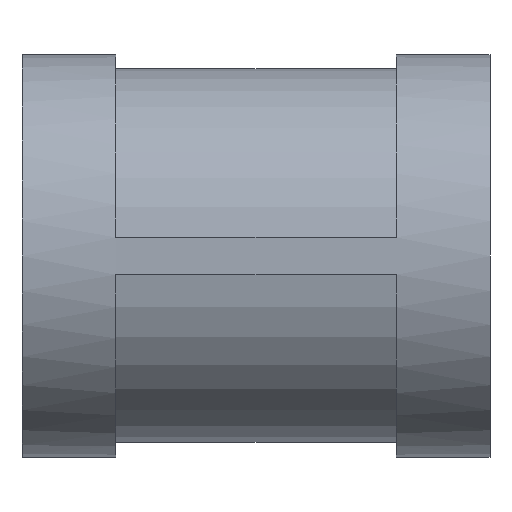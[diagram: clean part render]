
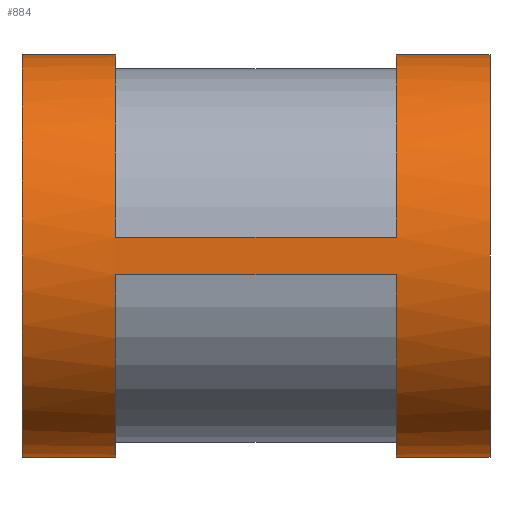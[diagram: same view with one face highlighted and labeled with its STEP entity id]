
A CAD part, front view. The second image highlights one B-rep face of the part: STEP entity #884.
In plain terms, the highlighted cylindrical face has radius 10.75 mm (diameter 21.5 mm), a partial arc.
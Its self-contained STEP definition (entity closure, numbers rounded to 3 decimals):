
#7 = LINE ( 'NONE', #683, #805 ) ;
#22 = VERTEX_POINT ( 'NONE', #66 ) ;
#45 = DIRECTION ( 'NONE',  ( 0., 0., 1. ) ) ;
#46 = CARTESIAN_POINT ( 'NONE',  ( -13.342, 0., 0. ) ) ;
#57 = EDGE_CURVE ( 'NONE', #364, #585, #175, .T. ) ;
#64 = EDGE_CURVE ( 'NONE', #370, #356, #538, .T. ) ;
#66 = CARTESIAN_POINT ( 'NONE',  ( 7.5, -10.703, -1. ) ) ;
#72 = LINE ( 'NONE', #835, #208 ) ;
#75 = DIRECTION ( 'NONE',  ( -1., 0., 0. ) ) ;
#80 = EDGE_CURVE ( 'NONE', #356, #22, #132, .T. ) ;
#82 = VERTEX_POINT ( 'NONE', #419 ) ;
#86 = EDGE_LOOP ( 'NONE', ( #101, #306, #374, #176, #388, #266, #413, #842, #321, #823, #240, #761 ) ) ;
#95 = CARTESIAN_POINT ( 'NONE',  ( 7.5, 0., 10.75 ) ) ;
#98 = CIRCLE ( 'NONE', #264, 10.75 ) ;
#101 = ORIENTED_EDGE ( 'NONE', *, *, #64, .F. ) ;
#120 = EDGE_CURVE ( 'NONE', #747, #246, #72, .T. ) ;
#130 = DIRECTION ( 'NONE',  ( -1., 0., 0. ) ) ;
#132 = CIRCLE ( 'NONE', #324, 10.75 ) ;
#135 = DIRECTION ( 'NONE',  ( 0., 0., 1. ) ) ;
#143 = CARTESIAN_POINT ( 'NONE',  ( 12.5, 0., 10.75 ) ) ;
#156 = EDGE_CURVE ( 'NONE', #577, #364, #7, .T. ) ;
#175 = CIRCLE ( 'NONE', #668, 10.75 ) ;
#176 = ORIENTED_EDGE ( 'NONE', *, *, #620, .F. ) ;
#183 = DIRECTION ( 'NONE',  ( -1., 0., 0. ) ) ;
#198 = CARTESIAN_POINT ( 'NONE',  ( -7.5, 0., 0. ) ) ;
#200 = CARTESIAN_POINT ( 'NONE',  ( -13.342, 0., -10.75 ) ) ;
#208 = VECTOR ( 'NONE', #832, 1000. ) ;
#219 = DIRECTION ( 'NONE',  ( 0., 0., 1. ) ) ;
#230 = CARTESIAN_POINT ( 'NONE',  ( -7.5, 0., 10.75 ) ) ;
#237 = DIRECTION ( 'NONE',  ( -1., 0., 0. ) ) ;
#240 = ORIENTED_EDGE ( 'NONE', *, *, #433, .F. ) ;
#246 = VERTEX_POINT ( 'NONE', #95 ) ;
#250 = DIRECTION ( 'NONE',  ( -1., 0., 0. ) ) ;
#264 = AXIS2_PLACEMENT_3D ( 'NONE', #507, #237, #845 ) ;
#266 = ORIENTED_EDGE ( 'NONE', *, *, #57, .T. ) ;
#274 = CIRCLE ( 'NONE', #764, 10.75 ) ;
#284 = DIRECTION ( 'NONE',  ( -1., 0., 0. ) ) ;
#289 = CIRCLE ( 'NONE', #647, 10.75 ) ;
#305 = EDGE_CURVE ( 'NONE', #680, #82, #886, .T. ) ;
#306 = ORIENTED_EDGE ( 'NONE', *, *, #530, .T. ) ;
#307 = CARTESIAN_POINT ( 'NONE',  ( -13.342, 0., 10.75 ) ) ;
#320 = FACE_OUTER_BOUND ( 'NONE', #86, .T. ) ;
#321 = ORIENTED_EDGE ( 'NONE', *, *, #591, .F. ) ;
#324 = AXIS2_PLACEMENT_3D ( 'NONE', #792, #183, #135 ) ;
#340 = CARTESIAN_POINT ( 'NONE',  ( -12.5, 0., -10.75 ) ) ;
#344 = VECTOR ( 'NONE', #130, 1000. ) ;
#345 = CARTESIAN_POINT ( 'NONE',  ( -12.5, 0., 0. ) ) ;
#356 = VERTEX_POINT ( 'NONE', #464 ) ;
#357 = DIRECTION ( 'NONE',  ( -1., 0., 0. ) ) ;
#364 = VERTEX_POINT ( 'NONE', #536 ) ;
#370 = VERTEX_POINT ( 'NONE', #450 ) ;
#372 = VECTOR ( 'NONE', #357, 1000. ) ;
#374 = ORIENTED_EDGE ( 'NONE', *, *, #120, .T. ) ;
#388 = ORIENTED_EDGE ( 'NONE', *, *, #156, .T. ) ;
#389 = DIRECTION ( 'NONE',  ( -1., 0., 0. ) ) ;
#413 = ORIENTED_EDGE ( 'NONE', *, *, #602, .T. ) ;
#418 = DIRECTION ( 'NONE',  ( 0., 0., 1. ) ) ;
#419 = CARTESIAN_POINT ( 'NONE',  ( -7.5, -10.703, -1. ) ) ;
#433 = EDGE_CURVE ( 'NONE', #22, #82, #790, .T. ) ;
#450 = CARTESIAN_POINT ( 'NONE',  ( 12.5, 0., -10.75 ) ) ;
#464 = CARTESIAN_POINT ( 'NONE',  ( 7.5, 0., -10.75 ) ) ;
#465 = DIRECTION ( 'NONE',  ( -1., 0., 0. ) ) ;
#507 = CARTESIAN_POINT ( 'NONE',  ( 7.5, 0., 0. ) ) ;
#513 = LINE ( 'NONE', #307, #372 ) ;
#516 = EDGE_CURVE ( 'NONE', #524, #752, #289, .T. ) ;
#524 = VERTEX_POINT ( 'NONE', #340 ) ;
#527 = AXIS2_PLACEMENT_3D ( 'NONE', #657, #590, #45 ) ;
#530 = EDGE_CURVE ( 'NONE', #370, #747, #274, .T. ) ;
#536 = CARTESIAN_POINT ( 'NONE',  ( -7.5, -10.703, 1. ) ) ;
#538 = LINE ( 'NONE', #200, #344 ) ;
#558 = DIRECTION ( 'NONE',  ( -1., 0., 0. ) ) ;
#577 = VERTEX_POINT ( 'NONE', #839 ) ;
#585 = VERTEX_POINT ( 'NONE', #230 ) ;
#590 = DIRECTION ( 'NONE',  ( -1., 0., 0. ) ) ;
#591 = EDGE_CURVE ( 'NONE', #680, #524, #642, .T. ) ;
#598 = VECTOR ( 'NONE', #250, 1000. ) ;
#602 = EDGE_CURVE ( 'NONE', #585, #752, #513, .T. ) ;
#607 = CARTESIAN_POINT ( 'NONE',  ( 12.5, 0., 0. ) ) ;
#620 = EDGE_CURVE ( 'NONE', #577, #246, #98, .T. ) ;
#642 = LINE ( 'NONE', #706, #598 ) ;
#647 = AXIS2_PLACEMENT_3D ( 'NONE', #345, #672, #219 ) ;
#655 = CYLINDRICAL_SURFACE ( 'NONE', #748, 10.75 ) ;
#657 = CARTESIAN_POINT ( 'NONE',  ( -7.5, 0., 0. ) ) ;
#668 = AXIS2_PLACEMENT_3D ( 'NONE', #198, #465, #734 ) ;
#672 = DIRECTION ( 'NONE',  ( -1., 0., 0. ) ) ;
#680 = VERTEX_POINT ( 'NONE', #778 ) ;
#683 = CARTESIAN_POINT ( 'NONE',  ( 9.654, -10.703, 1. ) ) ;
#690 = DIRECTION ( 'NONE',  ( 0., 0., 1. ) ) ;
#706 = CARTESIAN_POINT ( 'NONE',  ( -13.342, 0., -10.75 ) ) ;
#722 = VECTOR ( 'NONE', #389, 1000. ) ;
#727 = CARTESIAN_POINT ( 'NONE',  ( 9.654, -10.703, -1. ) ) ;
#734 = DIRECTION ( 'NONE',  ( 0., 0., 1. ) ) ;
#747 = VERTEX_POINT ( 'NONE', #143 ) ;
#748 = AXIS2_PLACEMENT_3D ( 'NONE', #46, #558, #690 ) ;
#752 = VERTEX_POINT ( 'NONE', #816 ) ;
#761 = ORIENTED_EDGE ( 'NONE', *, *, #80, .F. ) ;
#764 = AXIS2_PLACEMENT_3D ( 'NONE', #607, #284, #418 ) ;
#778 = CARTESIAN_POINT ( 'NONE',  ( -7.5, 0., -10.75 ) ) ;
#790 = LINE ( 'NONE', #727, #722 ) ;
#792 = CARTESIAN_POINT ( 'NONE',  ( 7.5, 0., 0. ) ) ;
#805 = VECTOR ( 'NONE', #75, 1000. ) ;
#816 = CARTESIAN_POINT ( 'NONE',  ( -12.5, 0., 10.75 ) ) ;
#823 = ORIENTED_EDGE ( 'NONE', *, *, #305, .T. ) ;
#832 = DIRECTION ( 'NONE',  ( -1., 0., 0. ) ) ;
#835 = CARTESIAN_POINT ( 'NONE',  ( -13.342, 0., 10.75 ) ) ;
#839 = CARTESIAN_POINT ( 'NONE',  ( 7.5, -10.703, 1. ) ) ;
#842 = ORIENTED_EDGE ( 'NONE', *, *, #516, .F. ) ;
#845 = DIRECTION ( 'NONE',  ( 0., 0., 1. ) ) ;
#884 = ADVANCED_FACE ( 'NONE', ( #320 ), #655, .T. ) ;
#886 = CIRCLE ( 'NONE', #527, 10.75 ) ;
